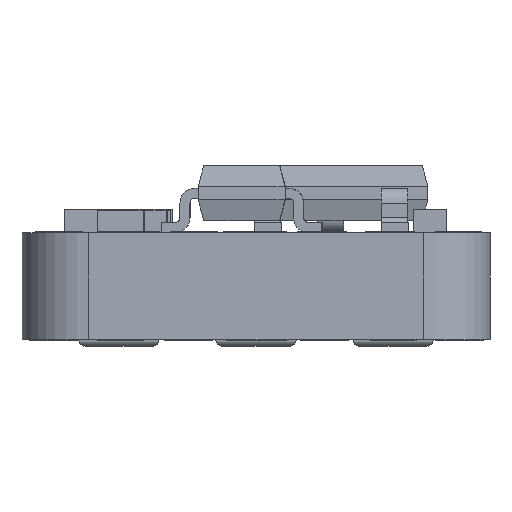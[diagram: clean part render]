
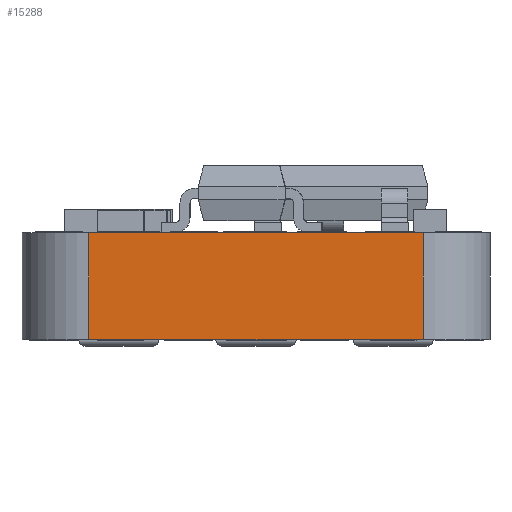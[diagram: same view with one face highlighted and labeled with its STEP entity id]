
A CAD part, left-side view. The second image highlights one B-rep face of the part: STEP entity #15288.
In plain terms, the highlighted planar face has unit normal (-1, 0, 0).
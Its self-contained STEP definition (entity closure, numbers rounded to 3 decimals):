
#802=FACE_OUTER_BOUND('',#1642,.T.);
#1642=EDGE_LOOP('',(#11725,#11726,#11727,#11728));
#2509=LINE('',#21486,#4433);
#3085=LINE('',#22720,#5009);
#3125=LINE('',#22888,#5049);
#3132=LINE('',#22901,#5056);
#4433=VECTOR('',#17548,10.);
#5009=VECTOR('',#18600,10.);
#5049=VECTOR('',#18812,10.);
#5056=VECTOR('',#18831,10.);
#6185=VERTEX_POINT('',#21484);
#6186=VERTEX_POINT('',#21485);
#6605=VERTEX_POINT('',#22718);
#6606=VERTEX_POINT('',#22719);
#7725=EDGE_CURVE('',#6185,#6186,#2509,.T.);
#8333=EDGE_CURVE('',#6605,#6606,#3085,.T.);
#8413=EDGE_CURVE('',#6606,#6185,#3125,.T.);
#8420=EDGE_CURVE('',#6605,#6186,#3132,.T.);
#11725=ORIENTED_EDGE('',*,*,#8333,.F.);
#11726=ORIENTED_EDGE('',*,*,#8420,.T.);
#11727=ORIENTED_EDGE('',*,*,#7725,.F.);
#11728=ORIENTED_EDGE('',*,*,#8413,.F.);
#13746=PLANE('',#16178);
#15288=ADVANCED_FACE('',(#802),#13746,.T.);
#16178=AXIS2_PLACEMENT_3D('',#22902,#18832,#18833);
#17548=DIRECTION('',(0.,1.,0.));
#18600=DIRECTION('',(0.,-1.,0.));
#18812=DIRECTION('',(0.,0.,-1.));
#18831=DIRECTION('',(0.,0.,-1.));
#18832=DIRECTION('center_axis',(-1.,0.,0.));
#18833=DIRECTION('ref_axis',(0.,1.,0.));
#21484=CARTESIAN_POINT('',(-22.408,0.924,-0.8));
#21485=CARTESIAN_POINT('',(-22.408,5.924,-0.8));
#21486=CARTESIAN_POINT('',(-22.408,5.924,-0.8));
#22718=CARTESIAN_POINT('',(-22.408,5.924,0.8));
#22719=CARTESIAN_POINT('',(-22.408,0.924,0.8));
#22720=CARTESIAN_POINT('',(-22.408,5.924,0.8));
#22888=CARTESIAN_POINT('',(-22.408,0.924,0.8));
#22901=CARTESIAN_POINT('',(-22.408,5.924,0.8));
#22902=CARTESIAN_POINT('Origin',(-22.408,0.924,0.8));
